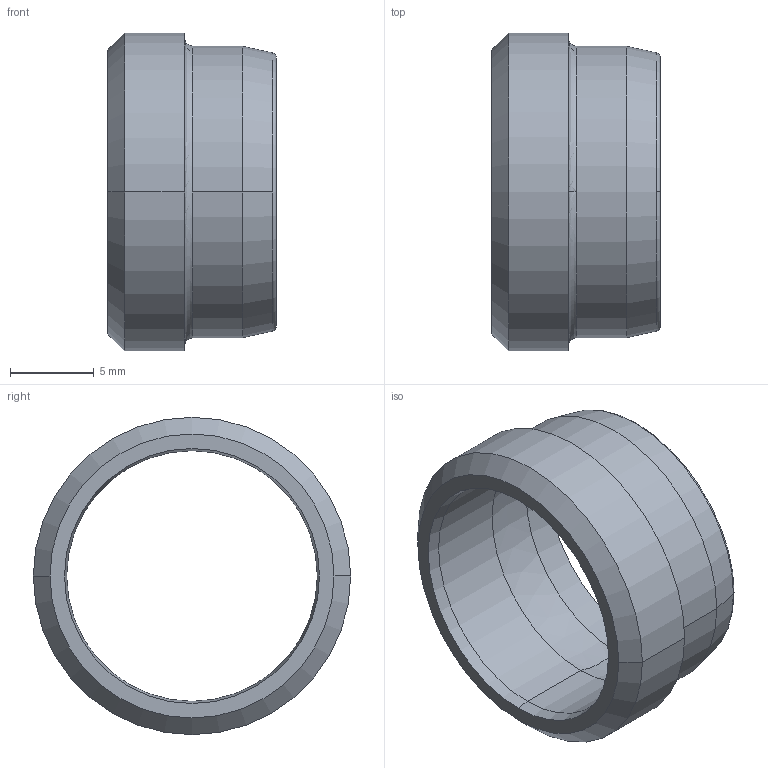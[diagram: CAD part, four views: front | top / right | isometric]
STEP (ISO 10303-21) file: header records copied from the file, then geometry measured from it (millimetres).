
FILE_DESCRIPTION((''),'2;1');
FILE_NAME('100108.stp','2006-03-06T15:07:27',('Dario Falcomer'),('CAST S.p.A.'),'AutoCAD STEP 2000i','AutoCAD 2000i',', , ');
FILE_SCHEMA(('CONFIG_CONTROL_DESIGN'));
Length unit declared in the file: millimetre
Products named in the file (2): 100108.0; 1001ESTERNO#0
Assembly tree (1 placements, depth 2):
  100108.0
    1001ESTERNO#0
Bounding box: 10.07 x 19 x 19 mm (x, y, z)
Volume: 733.7 mm3; surface area: 1205.4 mm2
Topology: 1 solids, 1 shells, 28 faces, 67 edges, 43 vertices
Faces by surface type: bspline 8, cone 8, cylinder 6, plane 4, torus 2
Entity records: 1241 total; most frequent: CARTESIAN_POINT 456, DIRECTION 164, ORIENTED_EDGE 134, AXIS2_PLACEMENT_3D 75, EDGE_CURVE 67, CIRCLE 53, VERTEX_POINT 43, EDGE_LOOP 32
